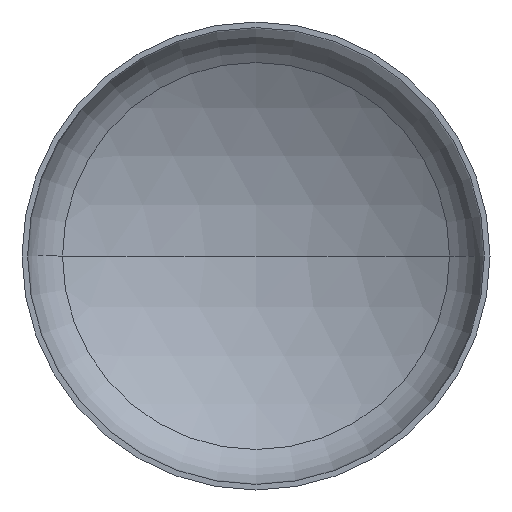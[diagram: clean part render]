
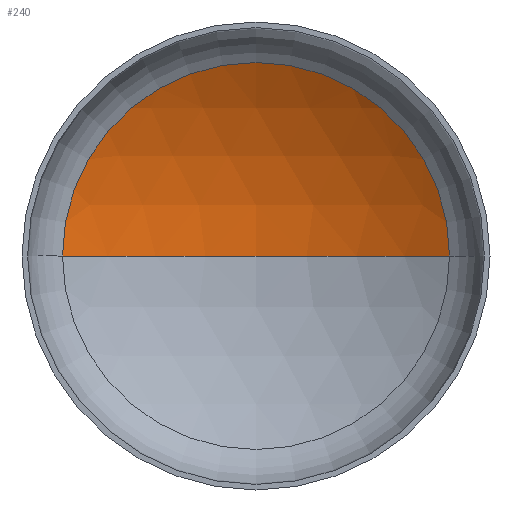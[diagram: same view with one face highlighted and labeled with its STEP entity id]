
A CAD part, front view. The second image highlights one B-rep face of the part: STEP entity #240.
In plain terms, the highlighted spherical face has radius 4800 mm.
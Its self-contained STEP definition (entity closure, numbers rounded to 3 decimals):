
#15 = DIRECTION ( 'NONE',  ( 1., 0., 0. ) ) ;
#19 = DIRECTION ( 'NONE',  ( 0., 0., 1. ) ) ;
#21 = VERTEX_POINT ( 'NONE', #219 ) ;
#33 = VERTEX_POINT ( 'NONE', #212 ) ;
#69 = ORIENTED_EDGE ( 'NONE', *, *, #184, .T. ) ;
#77 = ORIENTED_EDGE ( 'NONE', *, *, #223, .T. ) ;
#83 = EDGE_LOOP ( 'NONE', ( #152, #77, #69 ) ) ;
#108 = CIRCLE ( 'NONE', #116, 4800. ) ;
#116 = AXIS2_PLACEMENT_3D ( 'NONE', #159, #176, #170 ) ;
#131 = CARTESIAN_POINT ( 'NONE',  ( 0., -3197.17, 0. ) ) ;
#143 = DIRECTION ( 'NONE',  ( 0., 0., -1. ) ) ;
#152 = ORIENTED_EDGE ( 'NONE', *, *, #241, .F. ) ;
#159 = CARTESIAN_POINT ( 'NONE',  ( 0., -3197.17, 0. ) ) ;
#169 = DIRECTION ( 'NONE',  ( 1., 0., 0. ) ) ;
#170 = DIRECTION ( 'NONE',  ( -1., 0., 0. ) ) ;
#175 = AXIS2_PLACEMENT_3D ( 'NONE', #131, #19, #15 ) ;
#176 = DIRECTION ( 'NONE',  ( 0., 0., -1. ) ) ;
#184 = EDGE_CURVE ( 'NONE', #21, #233, #192, .T. ) ;
#191 = AXIS2_PLACEMENT_3D ( 'NONE', #242, #143, #238 ) ;
#192 = CIRCLE ( 'NONE', #401, 2481.135 ) ;
#212 = CARTESIAN_POINT ( 'NONE',  ( 0., 1602.83, 0. ) ) ;
#219 = CARTESIAN_POINT ( 'NONE',  ( 2481.135, 911.841, 0. ) ) ;
#223 = EDGE_CURVE ( 'NONE', #33, #21, #108, .T. ) ;
#229 = CARTESIAN_POINT ( 'NONE',  ( 0., 911.841, 0. ) ) ;
#233 = VERTEX_POINT ( 'NONE', #333 ) ;
#238 = DIRECTION ( 'NONE',  ( -1., 0., 0. ) ) ;
#240 = ADVANCED_FACE ( 'NONE', ( #326 ), #253, .F. ) ;
#241 = EDGE_CURVE ( 'NONE', #33, #233, #386, .T. ) ;
#242 = CARTESIAN_POINT ( 'NONE',  ( 0., -3197.17, 0. ) ) ;
#253 = SPHERICAL_SURFACE ( 'NONE', #191, 4800. ) ;
#312 = DIRECTION ( 'NONE',  ( 0., -1., 0. ) ) ;
#326 = FACE_OUTER_BOUND ( 'NONE', #83, .T. ) ;
#333 = CARTESIAN_POINT ( 'NONE',  ( -2481.135, 911.841, 0. ) ) ;
#386 = CIRCLE ( 'NONE', #175, 4800. ) ;
#401 = AXIS2_PLACEMENT_3D ( 'NONE', #229, #312, #169 ) ;
